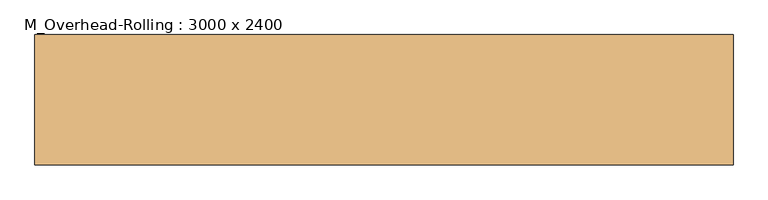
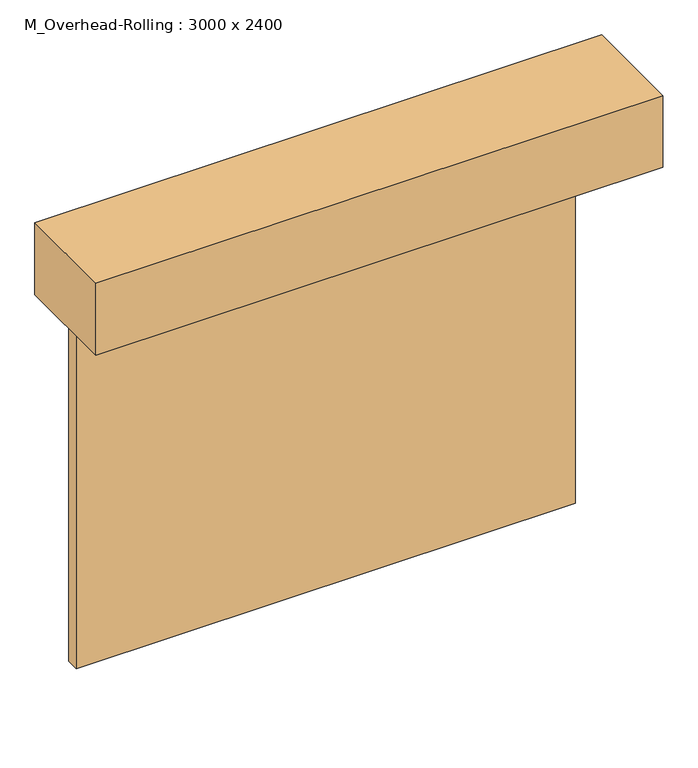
"""IFC4 building model written with IfcOpenShell, lengths in millimetres: door geometry, M_Overhead-Rolling : 3000 x 2400."""

from ifc_helpers import new_model, si_unit, frame, origin, origin_with_axes, place, context, project, spatial, polyline, outline, extrude, source, transform, mapped, element, save


def m_overhead_rolling_3000_x_2400_5775203b(model_context):
    return source(origin(), model_context, "Body", "SweptSolid", [
        extrude(outline(polyline([(1500.0, -71.0), (1500.0, -147.0), (-1500.0, -147.0), (-1500.0, -71.0), (1500.0, -71.0)])), origin_with_axes(), (0.0, 0.0, 1.0), 2400.0),
        extrude(outline(polyline([(1703.2, -705.8), (-1703.2, -705.8), (-1703.2, -71.0), (1703.2, -71.0), (1703.2, -705.8)])), frame((0.0, 0.0, 2400.0), z_axis=(0.0, 0.0, 1.0), x_axis=(1.0, 0.0, 0.0)), (0.0, 0.0, 1.0), 457.2),
    ])


if __name__ == "__main__":
    model = new_model("IFC4")
    model_context = context("Model", 3, world=origin())
    ifc_project = project(units=[si_unit("LENGTHUNIT", "METRE", prefix="MILLI")], contexts=[model_context])
    site = spatial("IfcSite", under=ifc_project)
    building = spatial("IfcBuilding", under=site)
    placement = place(None, origin())
    m_overhead_rolling_3000_x_2400_shape = m_overhead_rolling_3000_x_2400_5775203b(model_context)
    element("IfcDoor", 1, ObjectType="M_Overhead-Rolling : 3000 x 2400", at=placement, inside=building, context=model_context, shape_type="MappedRepresentation", body=[
        mapped(m_overhead_rolling_3000_x_2400_shape, transform((0.0, 0.0, 0.0), x_axis=(1.0, 0.0, 0.0), y_axis=(0.0, 1.0, 0.0), z_axis=(0.0, 0.0, 1.0))),
    ])
    save(model, "model.ifc")
